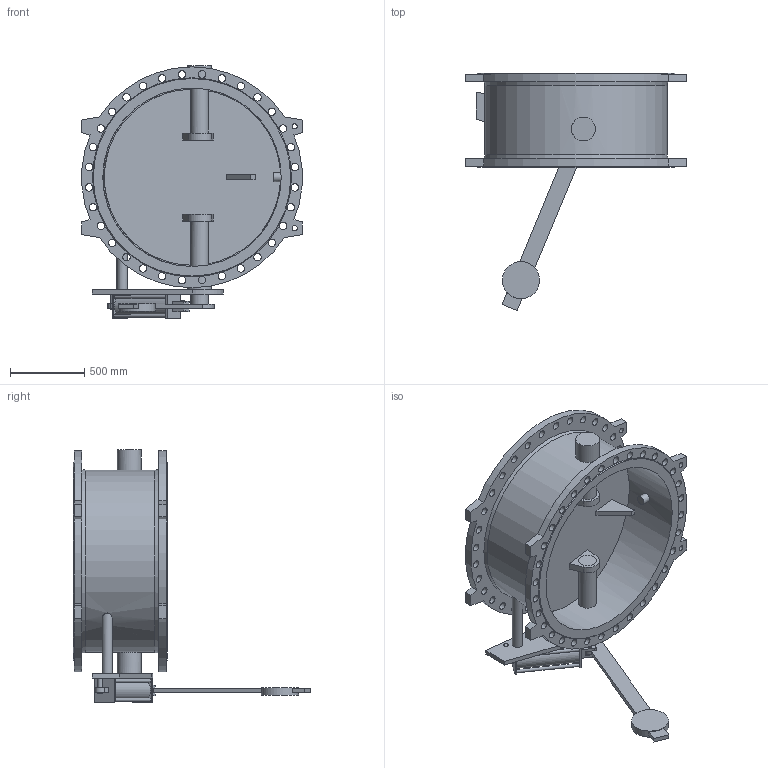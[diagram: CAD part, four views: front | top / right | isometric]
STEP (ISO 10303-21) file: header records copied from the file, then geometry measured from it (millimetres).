
FILE_DESCRIPTION(('STEP AP203'), '1');
FILE_NAME('Êëàïàí 015F.PV DN1200 PN16 ñ ïðîòèâîâåñîì ñ äåìïôåðîì', '', ('UNSPECIFIED'), ('UNSPECIFIED'), 'ASCON STEP Converter 1.6', 'ASCON Math Kernel', '');
FILE_SCHEMA(('CONFIG_CONTROL_DESIGN'));
Length unit declared in the file: millimetre
Bounding box: 1485 x 1595 x 1698 mm (x, y, z)
Volume: 139066101.6 mm3; surface area: 12033015.3 mm2
Topology: 1 solids, 1 shells, 231 faces, 601 edges, 399 vertices
Faces by surface type: cylinder 122, plane 100, cone 4, extrusion 2, torus 2, bspline 1
Full cylindrical faces by diameter (mm): 18 x1, 22 x4, 30 x2, 32 x7, 35 x4, 50 x65, 60 x1, 70 x1, 120 x3, 122 x2, 140 x1, 160 x2, 250 x1, 1200 x1, 1226 x1
Entity records: 10635 total; most frequent: CARTESIAN_POINT 3007, DIRECTION 1170, ORIENTED_EDGE 980, EDGE_LOOP 526, EDGE_CURVE 490, AXIS2_PLACEMENT_3D 477, VERTEX_POINT 398, FACE_BOUND 322
